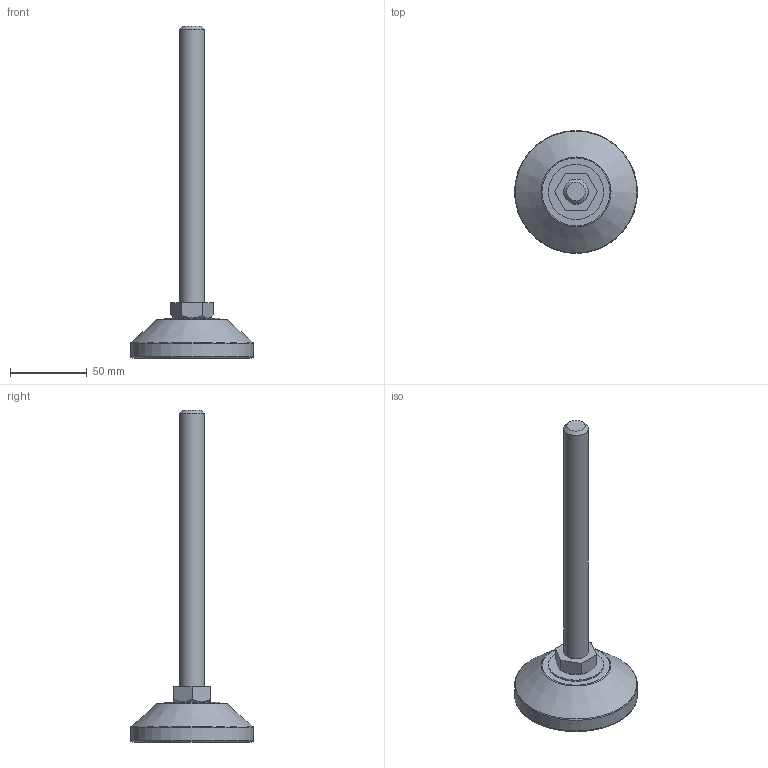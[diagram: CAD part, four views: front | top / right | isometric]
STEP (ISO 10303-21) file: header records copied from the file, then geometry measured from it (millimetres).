
FILE_DESCRIPTION(/* description */ (''),/* implementation_level */ '2;1');
FILE_NAME(/* name */ 'D:\조절자\F\F-M16-180L.stp',/* time_stamp */ '2016-03-14T14:32:56+09:00',/* author */ ('GS-DT-1-001'),/* organization */ (''),/* preprocessor_version */ 'ST-DEVELOPER v15.6',/* originating_system */ 'Autodesk Inventor LT ',/* authorisation */ '');
FILE_SCHEMA (('AUTOMOTIVE_DESIGN { 1 0 10303 214 3 1 1 }'));
Length unit declared in the file: millimetre
Products named in the file (1): F-M16-180L
Bounding box: 80 x 80 x 216 mm (x, y, z)
Volume: 109044.4 mm3; surface area: 27489 mm2
Topology: 1 solids, 2 shells, 46 faces, 81 edges, 50 vertices
Faces by surface type: plane 21, cylinder 13, cone 8, torus 4
Full cylindrical faces by diameter (mm): 6.912 x1, 8 x1, 8.2 x1, 8.3 x1, 16 x2, 36 x1, 50 x1, 57 x1, 61 x1, 71 x1, 75 x1, 80 x1
Entity records: 988 total; most frequent: DIRECTION 180, CARTESIAN_POINT 163, ORIENTED_EDGE 110, AXIS2_PLACEMENT_3D 84, EDGE_LOOP 82, EDGE_CURVE 55, VERTEX_POINT 49, FACE_OUTER_BOUND 46
